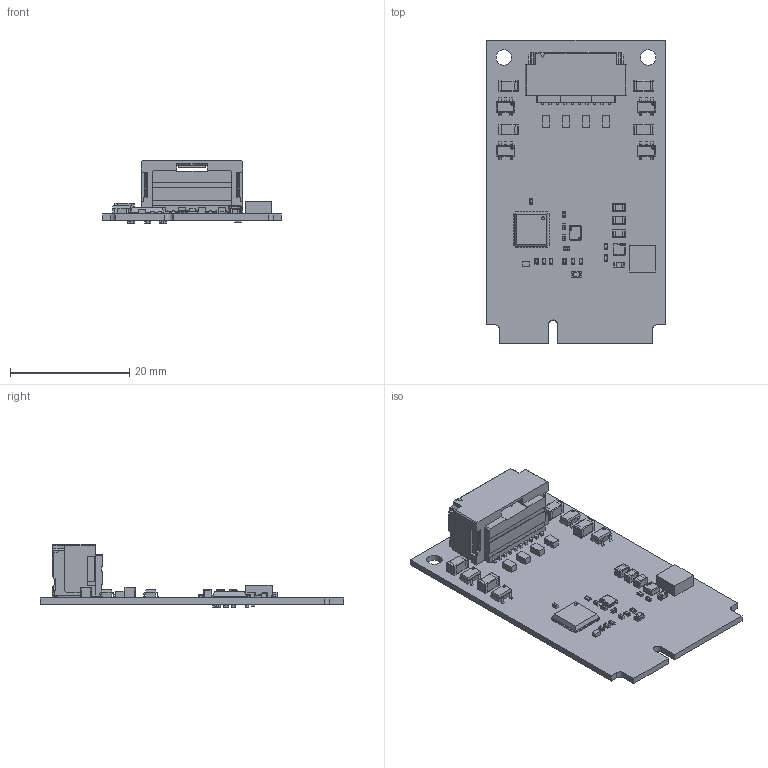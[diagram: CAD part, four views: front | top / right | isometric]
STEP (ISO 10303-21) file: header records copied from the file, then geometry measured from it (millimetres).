
FILE_DESCRIPTION(('Open CASCADE Model'),'2;1');
FILE_NAME('Open CASCADE Shape Model','2022-02-08T13:23:44',('Author'),( 'Open CASCADE'),'Open CASCADE STEP processor 6.8','Open CASCADE 6.8' ,'Unknown');
FILE_SCHEMA(('AUTOMOTIVE_DESIGN { 1 0 10303 214 1 1 1 1 }'));
Products named in the file (1): PCB
Bounding box: 30 x 50.95 x 10.59 mm (x, y, z)
Volume: 2406.2 mm3; surface area: 5136.3 mm2
Topology: 89 solids, 1461 shells, 3660 faces, 13402 edges, 11445 vertices
Faces by surface type: plane 2457, cylinder 767, bspline 238, sphere 164, cone 22, torus 12
Full cylindrical faces by diameter (mm): 0.135 x1, 0.5 x1, 2.6 x2
Entity records: 157499 total; most frequent: CARTESIAN_POINT 34470, DIRECTION 22240, ORIENTED_EDGE 19126, EDGE_CURVE 12926, VERTEX_POINT 10821, LINE 9536, VECTOR 9536, AXIS2_PLACEMENT_3D 6352
